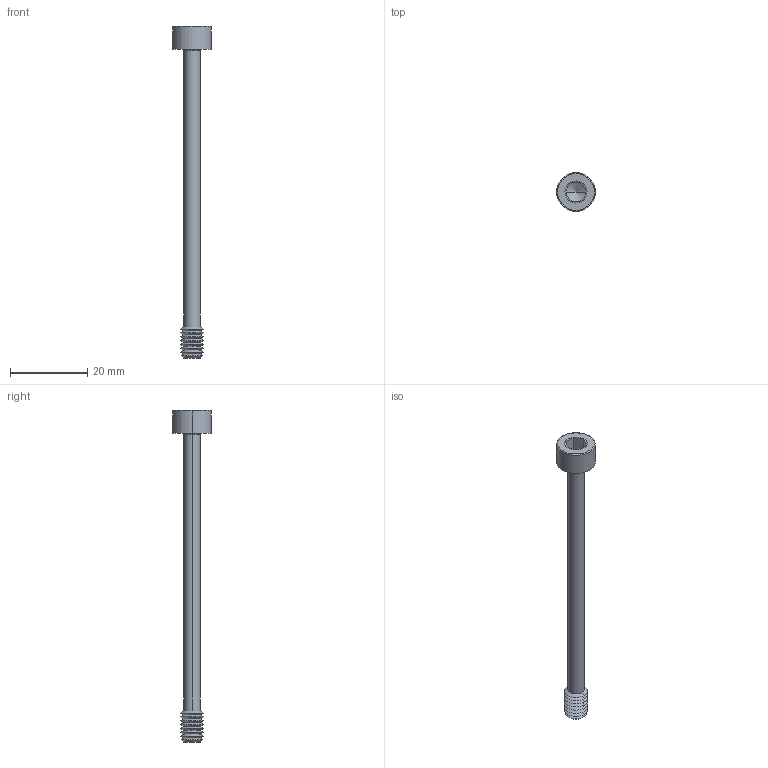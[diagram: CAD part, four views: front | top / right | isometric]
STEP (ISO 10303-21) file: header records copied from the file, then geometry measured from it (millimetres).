
FILE_DESCRIPTION (( 'STEP AP203' ), '1' );
FILE_NAME ('P0154.060-080-BL.step', '2024-06-17T11:30:33', ( '' ), ( '' ), 'SwSTEP 2.0', 'SolidWorks 2019', '' );
FILE_SCHEMA (( 'CONFIG_CONTROL_DESIGN' ));
Length unit declared in the file: millimetre
Products named in the file (1): P0154.060-080-BL
Bounding box: 10 x 10 x 86 mm (x, y, z)
Volume: 1515.9 mm3; surface area: 1631.2 mm2
Topology: 1 solids, 1 shells, 63 faces, 128 edges, 67 vertices
Faces by surface type: cone 40, plane 15, torus 4, cylinder 4
Entity records: 1687 total; most frequent: DIRECTION 312, CARTESIAN_POINT 283, ORIENTED_EDGE 252, AXIS2_PLACEMENT_3D 128, EDGE_CURVE 126, VERTEX_POINT 67, EDGE_LOOP 65, CIRCLE 64
